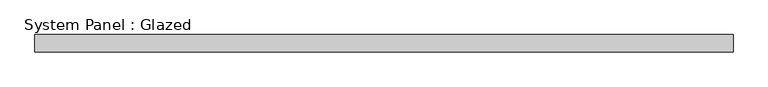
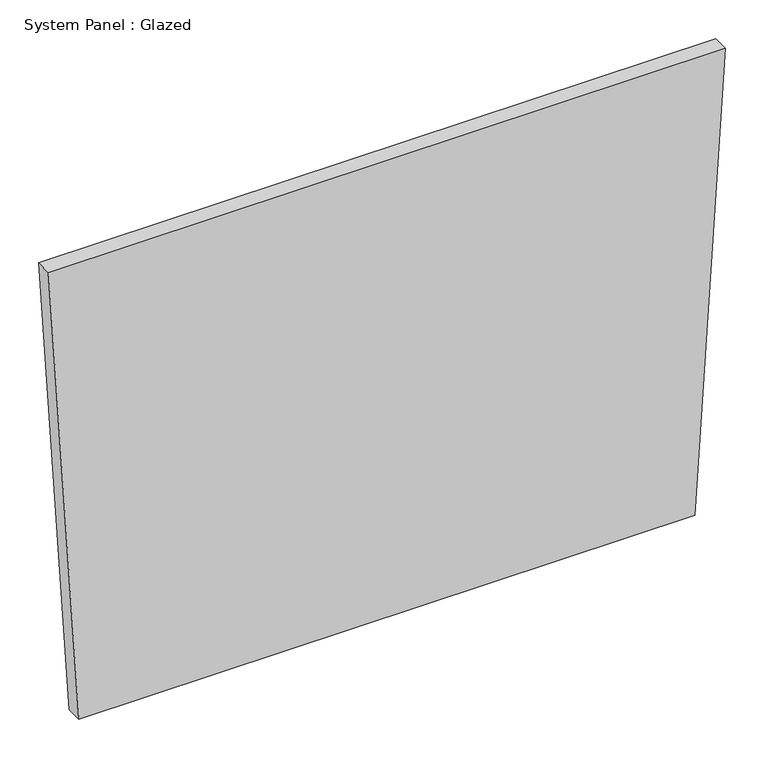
"""IFC4 building model written with IfcOpenShell, lengths in millimetres: plate geometry, System Panel : Glazed."""

from ifc_helpers import new_model, si_unit, frame, origin, place, context, project, spatial, polyline, outline, extrude, source, transform, mapped, element, save


def system_panel_glazed_2e94e17d(model_context):
    return source(origin(), model_context, "Body", "SweptSolid", [
        extrude(outline(polyline([(0.0, -461.7287814), (0.0, 461.7288372), (723.4631103, 507.4048645), (723.4639939, -507.4048645), (0.0, -461.7287814)])), frame((0.0, 19.05, 0.0), z_axis=(0.0, 1.0, 0.0), x_axis=(0.0, 0.0, 1.0)), (0.0, 0.0, 1.0), 25.4),
    ])


if __name__ == "__main__":
    model = new_model("IFC4")
    model_context = context("Model", 3, world=origin())
    ifc_project = project(units=[si_unit("LENGTHUNIT", "METRE", prefix="MILLI")], contexts=[model_context])
    site = spatial("IfcSite", under=ifc_project)
    building = spatial("IfcBuilding", under=site)
    placement = place(None, origin())
    system_panel_glazed_shape = system_panel_glazed_2e94e17d(model_context)
    element("IfcPlate", 1, ObjectType="System Panel : Glazed", at=placement, inside=building, context=model_context, shape_type="MappedRepresentation", body=[
        mapped(system_panel_glazed_shape, transform((0.0, 0.0, 0.0), x_axis=(1.0, 0.0, 0.0), y_axis=(0.0, 1.0, 0.0), z_axis=(0.0, 0.0, 1.0))),
    ])
    save(model, "model.ifc")
